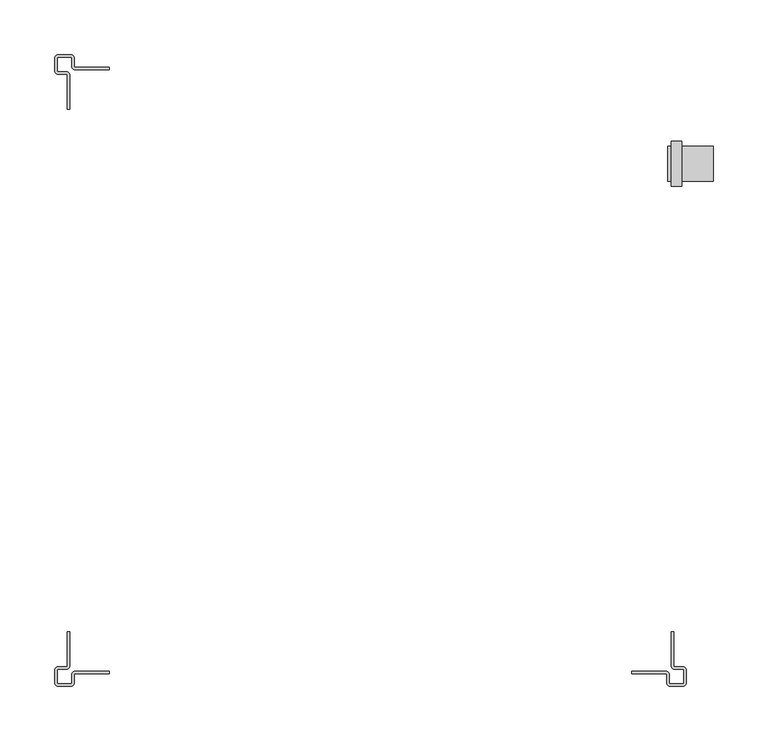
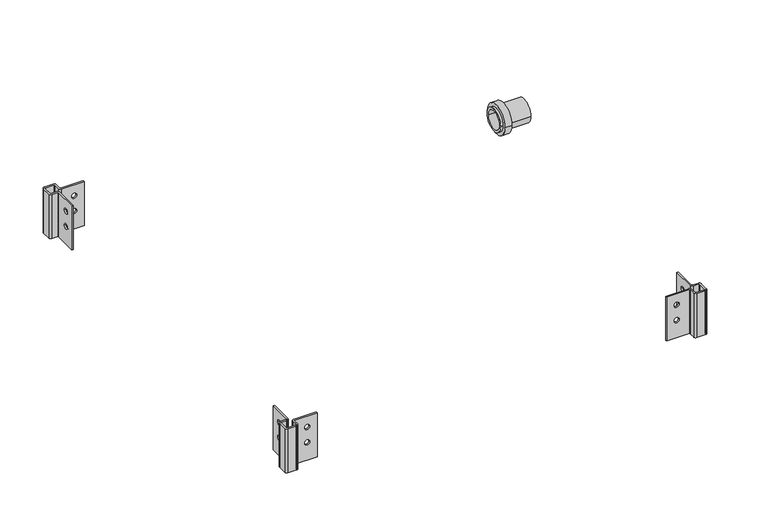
"""IFC4 building model written with IfcOpenShell, lengths in millimetres: proxy geometry, 40 SWHP : #40-SWHP."""

from ifc_helpers import new_model, si_unit, point, frame, frame_2d, origin, place, context, project, spatial, polyline, circle_curve, trimmed, segment, composite_curve, outline, extrude, source, transform, mapped, element, save
from ifc_brep_helpers import plane_surface, cylinder_surface, revolved_surface, advanced_brep


def generic_models_ff12452c(model_context):
    return source(origin(), model_context, "Body", "SolidModel", [
        advanced_brep(
        [(276.247225, -238.248825, 63.5), (274.240625, -238.248825, 63.5), (274.240625, -269.389225, 63.5), (277.009225, -272.157825, 63.5), (284.908625, -272.157825, 63.5), (285.670625, -272.919825, 63.5), (285.670625, -284.908625, 63.5), (284.908625, -285.670625, 63.5), (272.919825, -285.670625, 63.5), (272.157825, -284.908625, 63.5), (272.157825, -277.009225, 63.5), (269.389225, -274.240625, 63.5), (238.248825, -274.240625, 63.5), (238.248825, -276.247225, 63.5), (269.389225, -276.247225, 63.5), (270.151225, -277.009225, 63.5), (270.151225, -284.908625, 63.5), (272.919825, -287.677225, 63.5), (284.908625, -287.677225, 63.5), (287.677225, -284.908625, 63.5), (287.677225, -272.919825, 63.5), (284.908625, -270.151225, 63.5), (277.009225, -270.151225, 63.5), (276.247225, -269.389225, 63.5), (276.247225, -238.248825, 0.0), (276.247225, -269.389225, 0.0), (277.009225, -270.151225, 0.0), (284.908625, -270.151225, 0.0), (287.677225, -272.919825, 0.0), (287.677225, -284.908625, 0.0), (284.908625, -287.677225, 0.0), (272.919825, -287.677225, 0.0), (270.151225, -284.908625, 0.0), (270.151225, -277.009225, 0.0), (269.389225, -276.247225, 0.0), (238.248825, -276.247225, 0.0), (238.248825, -274.240625, 0.0), (269.389225, -274.240625, 0.0), (272.157825, -277.009225, 0.0), (272.157825, -284.908625, 0.0), (272.919825, -285.670625, 0.0), (284.908625, -285.670625, 0.0), (285.670625, -284.908625, 0.0), (285.670625, -272.919825, 0.0), (284.908625, -272.157825, 0.0), (277.009225, -272.157825, 0.0), (274.240625, -269.389225, 0.0), (274.240625, -238.248825, 0.0), (274.240625, -255.584325, 47.625), (274.240625, -248.446925, 47.625), (274.240625, -255.584325, 25.4), (274.240625, -248.446925, 25.4), (248.446925, -274.240625, 47.625), (255.584325, -274.240625, 47.625), (248.446925, -274.240625, 25.4), (255.584325, -274.240625, 25.4), (255.584325, -276.247225, 47.625), (248.446925, -276.247225, 47.625), (255.584325, -276.247225, 25.4), (248.446925, -276.247225, 25.4), (276.247225, -248.446925, 47.625), (276.247225, -255.584325, 47.625), (276.247225, -248.446925, 25.4), (276.247225, -255.584325, 25.4)],
        [
            (0, 1),
            (1, 2),
            (2, 3, circle_curve(frame((277.009225, -269.389225, 63.5), z_axis=(0.0, 0.0, 1.0), x_axis=(1.0, 0.0, 0.0)), 2.7686)),
            (3, 4),
            (4, 5, circle_curve(frame((284.908625, -272.919825, 63.5), z_axis=(0.0, 0.0, -1.0), x_axis=(1.0, 0.0, 0.0)), 0.762)),
            (5, 6),
            (6, 7, circle_curve(frame((284.908625, -284.908625, 63.5), z_axis=(0.0, 0.0, -1.0), x_axis=(1.0, 0.0, 0.0)), 0.762)),
            (7, 8),
            (8, 9, circle_curve(frame((272.919825, -284.908625, 63.5), z_axis=(0.0, 0.0, -1.0), x_axis=(1.0, 0.0, 0.0)), 0.762)),
            (9, 10),
            (10, 11, circle_curve(frame((269.389225, -277.009225, 63.5), z_axis=(0.0, 0.0, 1.0), x_axis=(1.0, 0.0, 0.0)), 2.7686)),
            (11, 12),
            (12, 13),
            (13, 14),
            (14, 15, circle_curve(frame((269.389225, -277.009225, 63.5), z_axis=(0.0, 0.0, -1.0), x_axis=(1.0, 0.0, 0.0)), 0.762)),
            (15, 16),
            (16, 17, circle_curve(frame((272.919825, -284.908625, 63.5), z_axis=(0.0, 0.0, 1.0), x_axis=(1.0, 0.0, 0.0)), 2.7686)),
            (17, 18),
            (18, 19, circle_curve(frame((284.908625, -284.908625, 63.5), z_axis=(0.0, 0.0, 1.0), x_axis=(1.0, 0.0, 0.0)), 2.7686)),
            (19, 20),
            (20, 21, circle_curve(frame((284.908625, -272.919825, 63.5), z_axis=(0.0, 0.0, 1.0), x_axis=(1.0, 0.0, 0.0)), 2.7686)),
            (21, 22),
            (22, 23, circle_curve(frame((277.009225, -269.389225, 63.5), z_axis=(0.0, 0.0, -1.0), x_axis=(1.0, 0.0, 0.0)), 0.762)),
            (23, 0),
            (24, 25),
            (25, 26, circle_curve(frame((277.009225, -269.389225, 0.0), z_axis=(0.0, 0.0, 1.0), x_axis=(1.0, 0.0, 0.0)), 0.762)),
            (26, 27),
            (27, 28, circle_curve(frame((284.908625, -272.919825, 0.0), z_axis=(0.0, 0.0, -1.0), x_axis=(1.0, 0.0, 0.0)), 2.7686)),
            (28, 29),
            (29, 30, circle_curve(frame((284.908625, -284.908625, 0.0), z_axis=(0.0, 0.0, -1.0), x_axis=(1.0, 0.0, 0.0)), 2.7686)),
            (30, 31),
            (31, 32, circle_curve(frame((272.919825, -284.908625, 0.0), z_axis=(0.0, 0.0, -1.0), x_axis=(1.0, 0.0, 0.0)), 2.7686)),
            (32, 33),
            (33, 34, circle_curve(frame((269.389225, -277.009225, 0.0), z_axis=(0.0, 0.0, 1.0), x_axis=(1.0, 0.0, 0.0)), 0.762)),
            (34, 35),
            (35, 36),
            (36, 37),
            (37, 38, circle_curve(frame((269.389225, -277.009225, 0.0), z_axis=(0.0, 0.0, -1.0), x_axis=(1.0, 0.0, 0.0)), 2.7686)),
            (38, 39),
            (39, 40, circle_curve(frame((272.919825, -284.908625, 0.0), z_axis=(0.0, 0.0, 1.0), x_axis=(1.0, 0.0, 0.0)), 0.762)),
            (40, 41),
            (41, 42, circle_curve(frame((284.908625, -284.908625, 0.0), z_axis=(0.0, 0.0, 1.0), x_axis=(1.0, 0.0, 0.0)), 0.762)),
            (42, 43),
            (43, 44, circle_curve(frame((284.908625, -272.919825, 0.0), z_axis=(0.0, 0.0, 1.0), x_axis=(1.0, 0.0, 0.0)), 0.762)),
            (44, 45),
            (45, 46, circle_curve(frame((277.009225, -269.389225, 0.0), z_axis=(0.0, 0.0, -1.0), x_axis=(1.0, 0.0, 0.0)), 2.7686)),
            (46, 47),
            (47, 24),
            (0, 24),
            (47, 1),
            (46, 2),
            (48, 49, circle_curve(frame((274.240625, -252.015625, 47.625), z_axis=(1.0, 0.0, 0.0), x_axis=(0.0, -1.0, 0.0)), 3.5687)),
            (49, 48, circle_curve(frame((274.240625, -252.015625, 47.625), z_axis=(1.0, 0.0, 0.0), x_axis=(0.0, -1.0, 0.0)), 3.5687)),
            (50, 51, circle_curve(frame((274.240625, -252.015625, 25.4), z_axis=(1.0, 0.0, 0.0), x_axis=(0.0, -1.0, 0.0)), 3.5687)),
            (51, 50, circle_curve(frame((274.240625, -252.015625, 25.4), z_axis=(1.0, 0.0, 0.0), x_axis=(0.0, -1.0, 0.0)), 3.5687)),
            (45, 3),
            (44, 4),
            (43, 5),
            (42, 6),
            (41, 7),
            (40, 8),
            (39, 9),
            (38, 10),
            (37, 11),
            (36, 12),
            (52, 53, circle_curve(frame((252.015625, -274.240625, 47.625), z_axis=(0.0, -1.0, 0.0), x_axis=(-1.0, 0.0, 0.0)), 3.5687)),
            (53, 52, circle_curve(frame((252.015625, -274.240625, 47.625), z_axis=(0.0, -1.0, 0.0), x_axis=(-1.0, 0.0, 0.0)), 3.5687)),
            (54, 55, circle_curve(frame((252.015625, -274.240625, 25.4), z_axis=(0.0, -1.0, 0.0), x_axis=(-1.0, 0.0, 0.0)), 3.5687)),
            (55, 54, circle_curve(frame((252.015625, -274.240625, 25.4), z_axis=(0.0, -1.0, 0.0), x_axis=(-1.0, 0.0, 0.0)), 3.5687)),
            (35, 13),
            (34, 14),
            (56, 57, circle_curve(frame((252.015625, -276.247225, 47.625), z_axis=(0.0, 1.0, 0.0), x_axis=(-1.0, 0.0, 0.0)), 3.5687)),
            (57, 56, circle_curve(frame((252.015625, -276.247225, 47.625), z_axis=(0.0, 1.0, 0.0), x_axis=(-1.0, 0.0, 0.0)), 3.5687)),
            (58, 59, circle_curve(frame((252.015625, -276.247225, 25.4), z_axis=(0.0, 1.0, 0.0), x_axis=(-1.0, 0.0, 0.0)), 3.5687)),
            (59, 58, circle_curve(frame((252.015625, -276.247225, 25.4), z_axis=(0.0, 1.0, 0.0), x_axis=(-1.0, 0.0, 0.0)), 3.5687)),
            (33, 15),
            (32, 16),
            (31, 17),
            (30, 18),
            (29, 19),
            (28, 20),
            (27, 21),
            (26, 22),
            (25, 23),
            (60, 61, circle_curve(frame((276.247225, -252.015625, 47.625), z_axis=(-1.0, 0.0, 0.0), x_axis=(0.0, -1.0, 0.0)), 3.5687)),
            (61, 60, circle_curve(frame((276.247225, -252.015625, 47.625), z_axis=(-1.0, 0.0, 0.0), x_axis=(0.0, -1.0, 0.0)), 3.5687)),
            (62, 63, circle_curve(frame((276.247225, -252.015625, 25.4), z_axis=(-1.0, 0.0, 0.0), x_axis=(0.0, -1.0, 0.0)), 3.5687)),
            (63, 62, circle_curve(frame((276.247225, -252.015625, 25.4), z_axis=(-1.0, 0.0, 0.0), x_axis=(0.0, -1.0, 0.0)), 3.5687)),
            (56, 53),
            (52, 57),
            (58, 55),
            (54, 59),
            (60, 49),
            (48, 61),
            (62, 51),
            (50, 63),
        ],
        [
            plane_surface(frame((274.240625, -238.248825, 63.5), z_axis=(0.0, 0.0, 1.0), x_axis=(-1.0, 0.0, 0.0))),
            plane_surface(frame((274.240625, -238.248825, 0.0), z_axis=(0.0, 0.0, -1.0), x_axis=(1.0, 0.0, 0.0))),
            plane_surface(frame((276.247225, -238.248825, 63.5), z_axis=(0.0, 1.0, 0.0), x_axis=(0.0, 0.0, -1.0))),
            plane_surface(frame((274.240625, -238.248825, 63.5), z_axis=(-1.0, 0.0, 0.0), x_axis=(0.0, 0.0, -1.0))),
            cylinder_surface(frame((277.009225, -269.389225, 0.0), z_axis=(0.0, 0.0, 1.0), x_axis=(1.0, 0.0, 0.0)), 2.7686),
            plane_surface(frame((277.009225, -272.157825, 63.5), z_axis=(0.0, -1.0, 0.0), x_axis=(0.0, 0.0, -1.0))),
            revolved_surface(polyline([(285.670625, -272.919825, 0.0), (285.670625, -272.919825, 63.5)]), (284.908625, -272.919825, 0.0), (0.0, 0.0, -1.0)),
            plane_surface(frame((285.670625, -272.919825, 63.5), z_axis=(-1.0, 0.0, 0.0), x_axis=(0.0, 0.0, -1.0))),
            revolved_surface(polyline([(285.670625, -284.908625, 0.0), (285.670625, -284.908625, 63.5)]), (284.908625, -284.908625, 0.0), (0.0, 0.0, -1.0)),
            plane_surface(frame((284.908625, -285.670625, 63.5), z_axis=(0.0, 1.0, 0.0), x_axis=(0.0, 0.0, -1.0))),
            revolved_surface(polyline([(273.681825, -284.908625, 0.0), (273.681825, -284.908625, 63.5)]), (272.919825, -284.908625, 0.0), (0.0, 0.0, -1.0)),
            plane_surface(frame((272.157825, -284.908625, 63.5), z_axis=(1.0, 0.0, 0.0), x_axis=(0.0, 0.0, -1.0))),
            cylinder_surface(frame((269.389225, -277.009225, 0.0), z_axis=(0.0, 0.0, 1.0), x_axis=(1.0, 0.0, 0.0)), 2.7686),
            plane_surface(frame((269.389225, -274.240625, 63.5), z_axis=(0.0, 1.0, 0.0), x_axis=(0.0, 0.0, -1.0))),
            plane_surface(frame((238.248825, -274.240625, 63.5), z_axis=(-1.0, 0.0, 0.0), x_axis=(0.0, 0.0, -1.0))),
            plane_surface(frame((238.248825, -276.247225, 63.5), z_axis=(0.0, -1.0, 0.0), x_axis=(0.0, 0.0, -1.0))),
            revolved_surface(polyline([(270.151225, -277.009225, 0.0), (270.151225, -277.009225, 63.5)]), (269.389225, -277.009225, 0.0), (0.0, 0.0, -1.0)),
            plane_surface(frame((270.151225, -277.009225, 63.5), z_axis=(-1.0, 0.0, 0.0), x_axis=(0.0, 0.0, -1.0))),
            cylinder_surface(frame((272.919825, -284.908625, 0.0), z_axis=(0.0, 0.0, 1.0), x_axis=(1.0, 0.0, 0.0)), 2.7686),
            plane_surface(frame((272.919825, -287.677225, 63.5), z_axis=(0.0, -1.0, 0.0), x_axis=(0.0, 0.0, -1.0))),
            cylinder_surface(frame((284.908625, -284.908625, 0.0), z_axis=(0.0, 0.0, 1.0), x_axis=(1.0, 0.0, 0.0)), 2.7686),
            plane_surface(frame((287.677225, -284.908625, 63.5), z_axis=(1.0, 0.0, 0.0), x_axis=(0.0, 0.0, -1.0))),
            cylinder_surface(frame((284.908625, -272.919825, 0.0), z_axis=(0.0, 0.0, 1.0), x_axis=(1.0, 0.0, 0.0)), 2.7686),
            plane_surface(frame((284.908625, -270.151225, 63.5), z_axis=(0.0, 1.0, 0.0), x_axis=(0.0, 0.0, -1.0))),
            revolved_surface(polyline([(277.771225, -269.389225, 0.0), (277.771225, -269.389225, 63.5)]), (277.009225, -269.389225, 0.0), (0.0, 0.0, -1.0)),
            plane_surface(frame((276.247225, -269.389225, 63.5), z_axis=(1.0, 0.0, 0.0), x_axis=(0.0, 0.0, -1.0))),
            revolved_surface(polyline([(248.446925, -274.240625, 47.625), (248.446925, -276.247225, 47.625)]), (252.015625, -278.914225, 47.625), (0.0, 1.0, 0.0)),
            revolved_surface(polyline([(248.446925, -274.240625, 25.4), (248.446925, -276.247225, 25.4)]), (252.015625, -278.914225, 25.4), (0.0, 1.0, 0.0)),
            revolved_surface(polyline([(274.240625, -255.584325, 47.625), (276.247225, -255.584325, 47.625)]), (278.914225, -252.015625, 47.625), (-1.0, 0.0, 0.0)),
            revolved_surface(polyline([(274.240625, -255.584325, 25.4), (276.247225, -255.584325, 25.4)]), (278.914225, -252.015625, 25.4), (-1.0, 0.0, 0.0)),
        ],
        [
            (0, [[1, 2, 3, 4, 5, 6, 7, 8, 9, 10, 11, 12, 13, 14, 15, 16, 17, 18, 19, 20, 21, 22, 23, 24]]),
            (1, [[25, 26, 27, 28, 29, 30, 31, 32, 33, 34, 35, 36, 37, 38, 39, 40, 41, 42, 43, 44, 45, 46, 47, 48]]),
            (2, [[-1, 49, -48, 50]]),
            (3, [[-2, -50, -47, 51], [52, 53], [54, 55]]),
            (4, [[-3, -51, -46, 56]]),
            (5, [[-4, -56, -45, 57]]),
            (6, [[-5, -57, -44, 58]]),
            (7, [[-6, -58, -43, 59]]),
            (8, [[-7, -59, -42, 60]]),
            (9, [[-8, -60, -41, 61]]),
            (10, [[-9, -61, -40, 62]]),
            (11, [[-10, -62, -39, 63]]),
            (12, [[-11, -63, -38, 64]]),
            (13, [[-12, -64, -37, 65], [66, 67], [68, 69]]),
            (14, [[-13, -65, -36, 70]]),
            (15, [[-14, -70, -35, 71], [72, 73], [74, 75]]),
            (16, [[-15, -71, -34, 76]]),
            (17, [[-16, -76, -33, 77]]),
            (18, [[-17, -77, -32, 78]]),
            (19, [[-18, -78, -31, 79]]),
            (20, [[-19, -79, -30, 80]]),
            (21, [[-20, -80, -29, 81]]),
            (22, [[-21, -81, -28, 82]]),
            (23, [[-22, -82, -27, 83]]),
            (24, [[-23, -83, -26, 84]]),
            (25, [[-24, -84, -25, -49], [85, 86], [87, 88]]),
            (26, [[89, -66, 90, -72]]),
            (26, [[-89, -73, -90, -67]]),
            (27, [[91, -68, 92, -74]]),
            (27, [[-91, -75, -92, -69]]),
            (28, [[93, -52, 94, -85]]),
            (28, [[-93, -86, -94, -53]]),
            (29, [[95, -54, 96, -87]]),
            (29, [[-95, -88, -96, -55]]),
        ],
    ),
        advanced_brep(
        [(-276.247225, -269.389225, 63.5), (-277.009225, -270.151225, 63.5), (-284.908625, -270.151225, 63.5), (-287.677225, -272.919825, 63.5), (-287.677225, -284.908625, 63.5), (-284.908625, -287.677225, 63.5), (-272.919825, -287.677225, 63.5), (-270.151225, -284.908625, 63.5), (-270.151225, -277.009225, 63.5), (-269.389225, -276.247225, 63.5), (-238.248825, -276.247225, 63.5), (-238.248825, -274.240625, 63.5), (-269.389225, -274.240625, 63.5), (-272.157825, -277.009225, 63.5), (-272.157825, -284.908625, 63.5), (-272.919825, -285.670625, 63.5), (-284.908625, -285.670625, 63.5), (-285.670625, -284.908625, 63.5), (-285.670625, -272.919825, 63.5), (-284.908625, -272.157825, 63.5), (-277.009225, -272.157825, 63.5), (-274.240625, -269.389225, 63.5), (-274.240625, -238.248825, 63.5), (-276.247225, -238.248825, 63.5), (-276.247225, -269.389225, 0.0), (-276.247225, -238.248825, 0.0), (-274.240625, -238.248825, 0.0), (-274.240625, -269.389225, 0.0), (-277.009225, -272.157825, 0.0), (-284.908625, -272.157825, 0.0), (-285.670625, -272.919825, 0.0), (-285.670625, -284.908625, 0.0), (-284.908625, -285.670625, 0.0), (-272.919825, -285.670625, 0.0), (-272.157825, -284.908625, 0.0), (-272.157825, -277.009225, 0.0), (-269.389225, -274.240625, 0.0), (-238.248825, -274.240625, 0.0), (-238.248825, -276.247225, 0.0), (-269.389225, -276.247225, 0.0), (-270.151225, -277.009225, 0.0), (-270.151225, -284.908625, 0.0), (-272.919825, -287.677225, 0.0), (-284.908625, -287.677225, 0.0), (-287.677225, -284.908625, 0.0), (-287.677225, -272.919825, 0.0), (-284.908625, -270.151225, 0.0), (-277.009225, -270.151225, 0.0), (-248.446925, -276.247225, 47.625), (-255.584325, -276.247225, 47.625), (-248.446925, -276.247225, 25.4), (-255.584325, -276.247225, 25.4), (-255.584325, -274.240625, 47.625), (-248.446925, -274.240625, 47.625), (-255.584325, -274.240625, 25.4), (-248.446925, -274.240625, 25.4), (-274.240625, -248.446925, 47.625), (-274.240625, -255.584325, 47.625), (-274.240625, -248.446925, 25.4), (-274.240625, -255.584325, 25.4), (-276.247225, -255.584325, 47.625), (-276.247225, -248.446925, 47.625), (-276.247225, -255.584325, 25.4), (-276.247225, -248.446925, 25.4)],
        [
            (0, 1, circle_curve(frame((-277.009225, -269.389225, 63.5), z_axis=(0.0, 0.0, -1.0), x_axis=(1.0, 0.0, 0.0)), 0.762)),
            (1, 2),
            (2, 3, circle_curve(frame((-284.908625, -272.919825, 63.5), z_axis=(0.0, 0.0, 1.0), x_axis=(1.0, 0.0, 0.0)), 2.7686)),
            (3, 4),
            (4, 5, circle_curve(frame((-284.908625, -284.908625, 63.5), z_axis=(0.0, 0.0, 1.0), x_axis=(1.0, 0.0, 0.0)), 2.7686)),
            (5, 6),
            (6, 7, circle_curve(frame((-272.919825, -284.908625, 63.5), z_axis=(0.0, 0.0, 1.0), x_axis=(1.0, 0.0, 0.0)), 2.7686)),
            (7, 8),
            (8, 9, circle_curve(frame((-269.389225, -277.009225, 63.5), z_axis=(0.0, 0.0, -1.0), x_axis=(1.0, 0.0, 0.0)), 0.762)),
            (9, 10),
            (10, 11),
            (11, 12),
            (12, 13, circle_curve(frame((-269.389225, -277.009225, 63.5), z_axis=(0.0, 0.0, 1.0), x_axis=(1.0, 0.0, 0.0)), 2.7686)),
            (13, 14),
            (14, 15, circle_curve(frame((-272.919825, -284.908625, 63.5), z_axis=(0.0, 0.0, -1.0), x_axis=(1.0, 0.0, 0.0)), 0.762)),
            (15, 16),
            (16, 17, circle_curve(frame((-284.908625, -284.908625, 63.5), z_axis=(0.0, 0.0, -1.0), x_axis=(1.0, 0.0, 0.0)), 0.762)),
            (17, 18),
            (18, 19, circle_curve(frame((-284.908625, -272.919825, 63.5), z_axis=(0.0, 0.0, -1.0), x_axis=(1.0, 0.0, 0.0)), 0.762)),
            (19, 20),
            (20, 21, circle_curve(frame((-277.009225, -269.389225, 63.5), z_axis=(0.0, 0.0, 1.0), x_axis=(1.0, 0.0, 0.0)), 2.7686)),
            (21, 22),
            (22, 23),
            (23, 0),
            (24, 25),
            (25, 26),
            (26, 27),
            (27, 28, circle_curve(frame((-277.009225, -269.389225, 0.0), z_axis=(0.0, 0.0, -1.0), x_axis=(1.0, 0.0, 0.0)), 2.7686)),
            (28, 29),
            (29, 30, circle_curve(frame((-284.908625, -272.919825, 0.0), z_axis=(0.0, 0.0, 1.0), x_axis=(1.0, 0.0, 0.0)), 0.762)),
            (30, 31),
            (31, 32, circle_curve(frame((-284.908625, -284.908625, 0.0), z_axis=(0.0, 0.0, 1.0), x_axis=(1.0, 0.0, 0.0)), 0.762)),
            (32, 33),
            (33, 34, circle_curve(frame((-272.919825, -284.908625, 0.0), z_axis=(0.0, 0.0, 1.0), x_axis=(1.0, 0.0, 0.0)), 0.762)),
            (34, 35),
            (35, 36, circle_curve(frame((-269.389225, -277.009225, 0.0), z_axis=(0.0, 0.0, -1.0), x_axis=(1.0, 0.0, 0.0)), 2.7686)),
            (36, 37),
            (37, 38),
            (38, 39),
            (39, 40, circle_curve(frame((-269.389225, -277.009225, 0.0), z_axis=(0.0, 0.0, 1.0), x_axis=(1.0, 0.0, 0.0)), 0.762)),
            (40, 41),
            (41, 42, circle_curve(frame((-272.919825, -284.908625, 0.0), z_axis=(0.0, 0.0, -1.0), x_axis=(1.0, 0.0, 0.0)), 2.7686)),
            (42, 43),
            (43, 44, circle_curve(frame((-284.908625, -284.908625, 0.0), z_axis=(0.0, 0.0, -1.0), x_axis=(1.0, 0.0, 0.0)), 2.7686)),
            (44, 45),
            (45, 46, circle_curve(frame((-284.908625, -272.919825, 0.0), z_axis=(0.0, 0.0, -1.0), x_axis=(1.0, 0.0, 0.0)), 2.7686)),
            (46, 47),
            (47, 24, circle_curve(frame((-277.009225, -269.389225, 0.0), z_axis=(0.0, 0.0, 1.0), x_axis=(1.0, 0.0, 0.0)), 0.762)),
            (0, 24),
            (47, 1),
            (46, 2),
            (45, 3),
            (44, 4),
            (43, 5),
            (42, 6),
            (41, 7),
            (40, 8),
            (39, 9),
            (38, 10),
            (48, 49, circle_curve(frame((-252.015625, -276.247225, 47.625), z_axis=(0.0, 1.0, 0.0), x_axis=(-1.0, 0.0, 0.0)), 3.5687)),
            (49, 48, circle_curve(frame((-252.015625, -276.247225, 47.625), z_axis=(0.0, 1.0, 0.0), x_axis=(-1.0, 0.0, 0.0)), 3.5687)),
            (50, 51, circle_curve(frame((-252.015625, -276.247225, 25.4), z_axis=(0.0, 1.0, 0.0), x_axis=(-1.0, 0.0, 0.0)), 3.5687)),
            (51, 50, circle_curve(frame((-252.015625, -276.247225, 25.4), z_axis=(0.0, 1.0, 0.0), x_axis=(-1.0, 0.0, 0.0)), 3.5687)),
            (37, 11),
            (36, 12),
            (52, 53, circle_curve(frame((-252.015625, -274.240625, 47.625), z_axis=(0.0, -1.0, 0.0), x_axis=(-1.0, 0.0, 0.0)), 3.5687)),
            (53, 52, circle_curve(frame((-252.015625, -274.240625, 47.625), z_axis=(0.0, -1.0, 0.0), x_axis=(-1.0, 0.0, 0.0)), 3.5687)),
            (54, 55, circle_curve(frame((-252.015625, -274.240625, 25.4), z_axis=(0.0, -1.0, 0.0), x_axis=(-1.0, 0.0, 0.0)), 3.5687)),
            (55, 54, circle_curve(frame((-252.015625, -274.240625, 25.4), z_axis=(0.0, -1.0, 0.0), x_axis=(-1.0, 0.0, 0.0)), 3.5687)),
            (35, 13),
            (34, 14),
            (33, 15),
            (32, 16),
            (31, 17),
            (30, 18),
            (29, 19),
            (28, 20),
            (27, 21),
            (26, 22),
            (56, 57, circle_curve(frame((-274.240625, -252.015625, 47.625), z_axis=(-1.0, 0.0, 0.0), x_axis=(0.0, -1.0, 0.0)), 3.5687)),
            (57, 56, circle_curve(frame((-274.240625, -252.015625, 47.625), z_axis=(-1.0, 0.0, 0.0), x_axis=(0.0, -1.0, 0.0)), 3.5687)),
            (58, 59, circle_curve(frame((-274.240625, -252.015625, 25.4), z_axis=(-1.0, 0.0, 0.0), x_axis=(0.0, -1.0, 0.0)), 3.5687)),
            (59, 58, circle_curve(frame((-274.240625, -252.015625, 25.4), z_axis=(-1.0, 0.0, 0.0), x_axis=(0.0, -1.0, 0.0)), 3.5687)),
            (25, 23),
            (60, 61, circle_curve(frame((-276.247225, -252.015625, 47.625), z_axis=(1.0, 0.0, 0.0), x_axis=(0.0, -1.0, 0.0)), 3.5687)),
            (61, 60, circle_curve(frame((-276.247225, -252.015625, 47.625), z_axis=(1.0, 0.0, 0.0), x_axis=(0.0, -1.0, 0.0)), 3.5687)),
            (62, 63, circle_curve(frame((-276.247225, -252.015625, 25.4), z_axis=(1.0, 0.0, 0.0), x_axis=(0.0, -1.0, 0.0)), 3.5687)),
            (63, 62, circle_curve(frame((-276.247225, -252.015625, 25.4), z_axis=(1.0, 0.0, 0.0), x_axis=(0.0, -1.0, 0.0)), 3.5687)),
            (56, 61),
            (60, 57),
            (58, 63),
            (62, 59),
            (48, 53),
            (52, 49),
            (50, 55),
            (54, 51),
        ],
        [
            plane_surface(frame((-276.247225, -269.389225, 63.5), z_axis=(0.0, 0.0, 1.0), x_axis=(0.0, -1.0, 0.0))),
            plane_surface(frame((-276.247225, -269.389225, 0.0), z_axis=(0.0, 0.0, -1.0), x_axis=(0.0, 1.0, 0.0))),
            revolved_surface(polyline([(-276.247225, -269.389225, 0.0), (-276.247225, -269.389225, 63.5)]), (-277.009225, -269.389225, 0.0), (0.0, 0.0, -1.0)),
            plane_surface(frame((-277.009225, -270.151225, 63.5), z_axis=(0.0, 1.0, 0.0), x_axis=(0.0, 0.0, -1.0))),
            cylinder_surface(frame((-284.908625, -272.919825, 0.0), z_axis=(0.0, 0.0, 1.0), x_axis=(1.0, 0.0, 0.0)), 2.7686),
            plane_surface(frame((-287.677225, -272.919825, 63.5), z_axis=(-1.0, 0.0, 0.0), x_axis=(0.0, 0.0, -1.0))),
            cylinder_surface(frame((-284.908625, -284.908625, 0.0), z_axis=(0.0, 0.0, 1.0), x_axis=(1.0, 0.0, 0.0)), 2.7686),
            plane_surface(frame((-284.908625, -287.677225, 63.5), z_axis=(0.0, -1.0, 0.0), x_axis=(0.0, 0.0, -1.0))),
            cylinder_surface(frame((-272.919825, -284.908625, 0.0), z_axis=(0.0, 0.0, 1.0), x_axis=(1.0, 0.0, 0.0)), 2.7686),
            plane_surface(frame((-270.151225, -284.908625, 63.5), z_axis=(1.0, 0.0, 0.0), x_axis=(0.0, 0.0, -1.0))),
            revolved_surface(polyline([(-268.627225, -277.009225, 0.0), (-268.627225, -277.009225, 63.5)]), (-269.389225, -277.009225, 0.0), (0.0, 0.0, -1.0)),
            plane_surface(frame((-269.389225, -276.247225, 63.5), z_axis=(0.0, -1.0, 0.0), x_axis=(0.0, 0.0, -1.0))),
            plane_surface(frame((-238.248825, -276.247225, 63.5), z_axis=(1.0, 0.0, 0.0), x_axis=(0.0, 0.0, -1.0))),
            plane_surface(frame((-238.248825, -274.240625, 63.5), z_axis=(0.0, 1.0, 0.0), x_axis=(0.0, 0.0, -1.0))),
            cylinder_surface(frame((-269.389225, -277.009225, 0.0), z_axis=(0.0, 0.0, 1.0), x_axis=(1.0, 0.0, 0.0)), 2.7686),
            plane_surface(frame((-272.157825, -277.009225, 63.5), z_axis=(-1.0, 0.0, 0.0), x_axis=(0.0, 0.0, -1.0))),
            revolved_surface(polyline([(-272.157825, -284.908625, 0.0), (-272.157825, -284.908625, 63.5)]), (-272.919825, -284.908625, 0.0), (0.0, 0.0, -1.0)),
            plane_surface(frame((-272.919825, -285.670625, 63.5), z_axis=(0.0, 1.0, 0.0), x_axis=(0.0, 0.0, -1.0))),
            revolved_surface(polyline([(-284.146625, -284.908625, 0.0), (-284.146625, -284.908625, 63.5)]), (-284.908625, -284.908625, 0.0), (0.0, 0.0, -1.0)),
            plane_surface(frame((-285.670625, -284.908625, 63.5), z_axis=(1.0, 0.0, 0.0), x_axis=(0.0, 0.0, -1.0))),
            revolved_surface(polyline([(-284.146625, -272.919825, 0.0), (-284.146625, -272.919825, 63.5)]), (-284.908625, -272.919825, 0.0), (0.0, 0.0, -1.0)),
            plane_surface(frame((-284.908625, -272.157825, 63.5), z_axis=(0.0, -1.0, 0.0), x_axis=(0.0, 0.0, -1.0))),
            cylinder_surface(frame((-277.009225, -269.389225, 0.0), z_axis=(0.0, 0.0, 1.0), x_axis=(1.0, 0.0, 0.0)), 2.7686),
            plane_surface(frame((-274.240625, -269.389225, 63.5), z_axis=(1.0, 0.0, 0.0), x_axis=(0.0, 0.0, -1.0))),
            plane_surface(frame((-274.240625, -238.248825, 63.5), z_axis=(0.0, 1.0, 0.0), x_axis=(0.0, 0.0, -1.0))),
            plane_surface(frame((-276.247225, -238.248825, 63.5), z_axis=(-1.0, 0.0, 0.0), x_axis=(0.0, 0.0, -1.0))),
            revolved_surface(polyline([(-276.247225, -255.584325, 47.625), (-274.240625, -255.584325, 47.625)]), (-271.065625, -252.015625, 47.625), (-1.0, 0.0, 0.0)),
            revolved_surface(polyline([(-276.247225, -255.584325, 25.4), (-274.240625, -255.584325, 25.4)]), (-278.914225, -252.015625, 25.4), (-1.0, 0.0, 0.0)),
            revolved_surface(polyline([(-255.584325, -274.240625, 47.625), (-255.584325, -276.247225, 47.625)]), (-252.015625, -278.914225, 47.625), (0.0, 1.0, 0.0)),
            revolved_surface(polyline([(-255.584325, -274.240625, 25.4), (-255.584325, -276.247225, 25.4)]), (-252.015625, -278.914225, 25.4), (0.0, 1.0, 0.0)),
        ],
        [
            (0, [[1, 2, 3, 4, 5, 6, 7, 8, 9, 10, 11, 12, 13, 14, 15, 16, 17, 18, 19, 20, 21, 22, 23, 24]]),
            (1, [[25, 26, 27, 28, 29, 30, 31, 32, 33, 34, 35, 36, 37, 38, 39, 40, 41, 42, 43, 44, 45, 46, 47, 48]]),
            (2, [[-1, 49, -48, 50]]),
            (3, [[-2, -50, -47, 51]]),
            (4, [[-3, -51, -46, 52]]),
            (5, [[-4, -52, -45, 53]]),
            (6, [[-5, -53, -44, 54]]),
            (7, [[-6, -54, -43, 55]]),
            (8, [[-7, -55, -42, 56]]),
            (9, [[-8, -56, -41, 57]]),
            (10, [[-9, -57, -40, 58]]),
            (11, [[-10, -58, -39, 59], [60, 61], [62, 63]]),
            (12, [[-11, -59, -38, 64]]),
            (13, [[-12, -64, -37, 65], [66, 67], [68, 69]]),
            (14, [[-13, -65, -36, 70]]),
            (15, [[-14, -70, -35, 71]]),
            (16, [[-15, -71, -34, 72]]),
            (17, [[-16, -72, -33, 73]]),
            (18, [[-17, -73, -32, 74]]),
            (19, [[-18, -74, -31, 75]]),
            (20, [[-19, -75, -30, 76]]),
            (21, [[-20, -76, -29, 77]]),
            (22, [[-21, -77, -28, 78]]),
            (23, [[-22, -78, -27, 79], [80, 81], [82, 83]]),
            (24, [[-23, -79, -26, 84]]),
            (25, [[-24, -84, -25, -49], [85, 86], [87, 88]]),
            (26, [[89, -85, 90, -80]]),
            (26, [[-89, -81, -90, -86]]),
            (27, [[91, -87, 92, -82]]),
            (27, [[-91, -83, -92, -88]]),
            (28, [[93, -66, 94, -60]]),
            (28, [[-93, -61, -94, -67]]),
            (29, [[95, -68, 96, -62]]),
            (29, [[-95, -63, -96, -69]]),
        ],
    ),
        advanced_brep(
        [(-238.248825, 276.247225, 63.5), (-269.389225, 276.247225, 63.5), (-270.151225, 277.009225, 63.5), (-270.151225, 284.908625, 63.5), (-272.919825, 287.677225, 63.5), (-284.908625, 287.677225, 63.5), (-287.677225, 284.908625, 63.5), (-287.677225, 272.919825, 63.5), (-284.908625, 270.151225, 63.5), (-277.009225, 270.151225, 63.5), (-276.247225, 269.389225, 63.5), (-276.247225, 238.248825, 63.5), (-274.240625, 238.248825, 63.5), (-274.240625, 269.389225, 63.5), (-277.009225, 272.157825, 63.5), (-284.908625, 272.157825, 63.5), (-285.670625, 272.919825, 63.5), (-285.670625, 284.908625, 63.5), (-284.908625, 285.670625, 63.5), (-272.919825, 285.670625, 63.5), (-272.157825, 284.908625, 63.5), (-272.157825, 277.009225, 63.5), (-269.389225, 274.240625, 63.5), (-238.248825, 274.240625, 63.5), (-238.248825, 276.247225, 0.0), (-238.248825, 274.240625, 0.0), (-269.389225, 274.240625, 0.0), (-272.157825, 277.009225, 0.0), (-272.157825, 284.908625, 0.0), (-272.919825, 285.670625, 0.0), (-284.908625, 285.670625, 0.0), (-285.670625, 284.908625, 0.0), (-285.670625, 272.919825, 0.0), (-284.908625, 272.157825, 0.0), (-277.009225, 272.157825, 0.0), (-274.240625, 269.389225, 0.0), (-274.240625, 238.248825, 0.0), (-276.247225, 238.248825, 0.0), (-276.247225, 269.389225, 0.0), (-277.009225, 270.151225, 0.0), (-284.908625, 270.151225, 0.0), (-287.677225, 272.919825, 0.0), (-287.677225, 284.908625, 0.0), (-284.908625, 287.677225, 0.0), (-272.919825, 287.677225, 0.0), (-270.151225, 284.908625, 0.0), (-270.151225, 277.009225, 0.0), (-269.389225, 276.247225, 0.0), (-255.584325, 276.247225, 47.625), (-248.446925, 276.247225, 47.625), (-255.584325, 276.247225, 25.4), (-248.446925, 276.247225, 25.4), (-276.247225, 248.446925, 47.625), (-276.247225, 255.584325, 47.625), (-276.247225, 248.446925, 25.4), (-276.247225, 255.584325, 25.4), (-274.240625, 255.584325, 47.625), (-274.240625, 248.446925, 47.625), (-274.240625, 255.584325, 25.4), (-274.240625, 248.446925, 25.4), (-248.446925, 274.240625, 47.625), (-255.584325, 274.240625, 47.625), (-248.446925, 274.240625, 25.4), (-255.584325, 274.240625, 25.4)],
        [
            (0, 1),
            (1, 2, circle_curve(frame((-269.389225, 277.009225, 63.5), z_axis=(0.0, 0.0, -1.0), x_axis=(1.0, 0.0, 0.0)), 0.762)),
            (2, 3),
            (3, 4, circle_curve(frame((-272.919825, 284.908625, 63.5), z_axis=(0.0, 0.0, 1.0), x_axis=(1.0, 0.0, 0.0)), 2.7686)),
            (4, 5),
            (5, 6, circle_curve(frame((-284.908625, 284.908625, 63.5), z_axis=(0.0, 0.0, 1.0), x_axis=(1.0, 0.0, 0.0)), 2.7686)),
            (6, 7),
            (7, 8, circle_curve(frame((-284.908625, 272.919825, 63.5), z_axis=(0.0, 0.0, 1.0), x_axis=(1.0, 0.0, 0.0)), 2.7686)),
            (8, 9),
            (9, 10, circle_curve(frame((-277.009225, 269.389225, 63.5), z_axis=(0.0, 0.0, -1.0), x_axis=(1.0, 0.0, 0.0)), 0.762)),
            (10, 11),
            (11, 12),
            (12, 13),
            (13, 14, circle_curve(frame((-277.009225, 269.389225, 63.5), z_axis=(0.0, 0.0, 1.0), x_axis=(1.0, 0.0, 0.0)), 2.7686)),
            (14, 15),
            (15, 16, circle_curve(frame((-284.908625, 272.919825, 63.5), z_axis=(0.0, 0.0, -1.0), x_axis=(1.0, 0.0, 0.0)), 0.762)),
            (16, 17),
            (17, 18, circle_curve(frame((-284.908625, 284.908625, 63.5), z_axis=(0.0, 0.0, -1.0), x_axis=(1.0, 0.0, 0.0)), 0.762)),
            (18, 19),
            (19, 20, circle_curve(frame((-272.919825, 284.908625, 63.5), z_axis=(0.0, 0.0, -1.0), x_axis=(1.0, 0.0, 0.0)), 0.762)),
            (20, 21),
            (21, 22, circle_curve(frame((-269.389225, 277.009225, 63.5), z_axis=(0.0, 0.0, 1.0), x_axis=(1.0, 0.0, 0.0)), 2.7686)),
            (22, 23),
            (23, 0),
            (24, 25),
            (25, 26),
            (26, 27, circle_curve(frame((-269.389225, 277.009225, 0.0), z_axis=(0.0, 0.0, -1.0), x_axis=(1.0, 0.0, 0.0)), 2.7686)),
            (27, 28),
            (28, 29, circle_curve(frame((-272.919825, 284.908625, 0.0), z_axis=(0.0, 0.0, 1.0), x_axis=(1.0, 0.0, 0.0)), 0.762)),
            (29, 30),
            (30, 31, circle_curve(frame((-284.908625, 284.908625, 0.0), z_axis=(0.0, 0.0, 1.0), x_axis=(1.0, 0.0, 0.0)), 0.762)),
            (31, 32),
            (32, 33, circle_curve(frame((-284.908625, 272.919825, 0.0), z_axis=(0.0, 0.0, 1.0), x_axis=(1.0, 0.0, 0.0)), 0.762)),
            (33, 34),
            (34, 35, circle_curve(frame((-277.009225, 269.389225, 0.0), z_axis=(0.0, 0.0, -1.0), x_axis=(1.0, 0.0, 0.0)), 2.7686)),
            (35, 36),
            (36, 37),
            (37, 38),
            (38, 39, circle_curve(frame((-277.009225, 269.389225, 0.0), z_axis=(0.0, 0.0, 1.0), x_axis=(1.0, 0.0, 0.0)), 0.762)),
            (39, 40),
            (40, 41, circle_curve(frame((-284.908625, 272.919825, 0.0), z_axis=(0.0, 0.0, -1.0), x_axis=(1.0, 0.0, 0.0)), 2.7686)),
            (41, 42),
            (42, 43, circle_curve(frame((-284.908625, 284.908625, 0.0), z_axis=(0.0, 0.0, -1.0), x_axis=(1.0, 0.0, 0.0)), 2.7686)),
            (43, 44),
            (44, 45, circle_curve(frame((-272.919825, 284.908625, 0.0), z_axis=(0.0, 0.0, -1.0), x_axis=(1.0, 0.0, 0.0)), 2.7686)),
            (45, 46),
            (46, 47, circle_curve(frame((-269.389225, 277.009225, 0.0), z_axis=(0.0, 0.0, 1.0), x_axis=(1.0, 0.0, 0.0)), 0.762)),
            (47, 24),
            (0, 24),
            (47, 1),
            (48, 49, circle_curve(frame((-252.015625, 276.247225, 47.625), z_axis=(0.0, -1.0, 0.0), x_axis=(-1.0, 0.0, 0.0)), 3.5687)),
            (49, 48, circle_curve(frame((-252.015625, 276.247225, 47.625), z_axis=(0.0, -1.0, 0.0), x_axis=(-1.0, 0.0, 0.0)), 3.5687)),
            (50, 51, circle_curve(frame((-252.015625, 276.247225, 25.4), z_axis=(0.0, -1.0, 0.0), x_axis=(-1.0, 0.0, 0.0)), 3.5687)),
            (51, 50, circle_curve(frame((-252.015625, 276.247225, 25.4), z_axis=(0.0, -1.0, 0.0), x_axis=(-1.0, 0.0, 0.0)), 3.5687)),
            (46, 2),
            (45, 3),
            (44, 4),
            (43, 5),
            (42, 6),
            (41, 7),
            (40, 8),
            (39, 9),
            (38, 10),
            (37, 11),
            (52, 53, circle_curve(frame((-276.247225, 252.015625, 47.625), z_axis=(1.0, 0.0, 0.0), x_axis=(0.0, -1.0, 0.0)), 3.5687)),
            (53, 52, circle_curve(frame((-276.247225, 252.015625, 47.625), z_axis=(1.0, 0.0, 0.0), x_axis=(0.0, -1.0, 0.0)), 3.5687)),
            (54, 55, circle_curve(frame((-276.247225, 252.015625, 25.4), z_axis=(1.0, 0.0, 0.0), x_axis=(0.0, -1.0, 0.0)), 3.5687)),
            (55, 54, circle_curve(frame((-276.247225, 252.015625, 25.4), z_axis=(1.0, 0.0, 0.0), x_axis=(0.0, -1.0, 0.0)), 3.5687)),
            (36, 12),
            (35, 13),
            (56, 57, circle_curve(frame((-274.240625, 252.015625, 47.625), z_axis=(-1.0, 0.0, 0.0), x_axis=(0.0, -1.0, 0.0)), 3.5687)),
            (57, 56, circle_curve(frame((-274.240625, 252.015625, 47.625), z_axis=(-1.0, 0.0, 0.0), x_axis=(0.0, -1.0, 0.0)), 3.5687)),
            (58, 59, circle_curve(frame((-274.240625, 252.015625, 25.4), z_axis=(-1.0, 0.0, 0.0), x_axis=(0.0, -1.0, 0.0)), 3.5687)),
            (59, 58, circle_curve(frame((-274.240625, 252.015625, 25.4), z_axis=(-1.0, 0.0, 0.0), x_axis=(0.0, -1.0, 0.0)), 3.5687)),
            (34, 14),
            (33, 15),
            (32, 16),
            (31, 17),
            (30, 18),
            (29, 19),
            (28, 20),
            (27, 21),
            (26, 22),
            (25, 23),
            (60, 61, circle_curve(frame((-252.015625, 274.240625, 47.625), z_axis=(0.0, 1.0, 0.0), x_axis=(-1.0, 0.0, 0.0)), 3.5687)),
            (61, 60, circle_curve(frame((-252.015625, 274.240625, 47.625), z_axis=(0.0, 1.0, 0.0), x_axis=(-1.0, 0.0, 0.0)), 3.5687)),
            (62, 63, circle_curve(frame((-252.015625, 274.240625, 25.4), z_axis=(0.0, 1.0, 0.0), x_axis=(-1.0, 0.0, 0.0)), 3.5687)),
            (63, 62, circle_curve(frame((-252.015625, 274.240625, 25.4), z_axis=(0.0, 1.0, 0.0), x_axis=(-1.0, 0.0, 0.0)), 3.5687)),
            (56, 53),
            (52, 57),
            (58, 55),
            (54, 59),
            (60, 49),
            (48, 61),
            (62, 51),
            (50, 63),
        ],
        [
            plane_surface(frame((-269.389225, 276.247225, 63.5), z_axis=(0.0, 0.0, 1.0), x_axis=(-1.0, 0.0, 0.0))),
            plane_surface(frame((-269.389225, 276.247225, 0.0), z_axis=(0.0, 0.0, -1.0), x_axis=(1.0, 0.0, 0.0))),
            plane_surface(frame((-238.248825, 276.247225, 63.5), z_axis=(0.0, 1.0, 0.0), x_axis=(0.0, 0.0, -1.0))),
            revolved_surface(polyline([(-268.627225, 277.009225, 0.0), (-268.627225, 277.009225, 63.5)]), (-269.389225, 277.009225, 0.0), (0.0, 0.0, -1.0)),
            plane_surface(frame((-270.151225, 277.009225, 63.5), z_axis=(1.0, 0.0, 0.0), x_axis=(0.0, 0.0, -1.0))),
            cylinder_surface(frame((-272.919825, 284.908625, 0.0), z_axis=(0.0, 0.0, 1.0), x_axis=(1.0, 0.0, 0.0)), 2.7686),
            plane_surface(frame((-272.919825, 287.677225, 63.5), z_axis=(0.0, 1.0, 0.0), x_axis=(0.0, 0.0, -1.0))),
            cylinder_surface(frame((-284.908625, 284.908625, 0.0), z_axis=(0.0, 0.0, 1.0), x_axis=(1.0, 0.0, 0.0)), 2.7686),
            plane_surface(frame((-287.677225, 284.908625, 63.5), z_axis=(-1.0, 0.0, 0.0), x_axis=(0.0, 0.0, -1.0))),
            cylinder_surface(frame((-284.908625, 272.919825, 0.0), z_axis=(0.0, 0.0, 1.0), x_axis=(1.0, 0.0, 0.0)), 2.7686),
            plane_surface(frame((-284.908625, 270.151225, 63.5), z_axis=(0.0, -1.0, 0.0), x_axis=(0.0, 0.0, -1.0))),
            revolved_surface(polyline([(-276.247225, 269.389225, 0.0), (-276.247225, 269.389225, 63.5)]), (-277.009225, 269.389225, 0.0), (0.0, 0.0, -1.0)),
            plane_surface(frame((-276.247225, 269.389225, 63.5), z_axis=(-1.0, 0.0, 0.0), x_axis=(0.0, 0.0, -1.0))),
            plane_surface(frame((-276.247225, 238.248825, 63.5), z_axis=(0.0, -1.0, 0.0), x_axis=(0.0, 0.0, -1.0))),
            plane_surface(frame((-274.240625, 238.248825, 63.5), z_axis=(1.0, 0.0, 0.0), x_axis=(0.0, 0.0, -1.0))),
            cylinder_surface(frame((-277.009225, 269.389225, 0.0), z_axis=(0.0, 0.0, 1.0), x_axis=(1.0, 0.0, 0.0)), 2.7686),
            plane_surface(frame((-277.009225, 272.157825, 63.5), z_axis=(0.0, 1.0, 0.0), x_axis=(0.0, 0.0, -1.0))),
            revolved_surface(polyline([(-284.146625, 272.919825, 0.0), (-284.146625, 272.919825, 63.5)]), (-284.908625, 272.919825, 0.0), (0.0, 0.0, -1.0)),
            plane_surface(frame((-285.670625, 272.919825, 63.5), z_axis=(1.0, 0.0, 0.0), x_axis=(0.0, 0.0, -1.0))),
            revolved_surface(polyline([(-284.146625, 284.908625, 0.0), (-284.146625, 284.908625, 63.5)]), (-284.908625, 284.908625, 0.0), (0.0, 0.0, -1.0)),
            plane_surface(frame((-284.908625, 285.670625, 63.5), z_axis=(0.0, -1.0, 0.0), x_axis=(0.0, 0.0, -1.0))),
            revolved_surface(polyline([(-272.157825, 284.908625, 0.0), (-272.157825, 284.908625, 63.5)]), (-272.919825, 284.908625, 0.0), (0.0, 0.0, -1.0)),
            plane_surface(frame((-272.157825, 284.908625, 63.5), z_axis=(-1.0, 0.0, 0.0), x_axis=(0.0, 0.0, -1.0))),
            cylinder_surface(frame((-269.389225, 277.009225, 0.0), z_axis=(0.0, 0.0, 1.0), x_axis=(1.0, 0.0, 0.0)), 2.7686),
            plane_surface(frame((-269.389225, 274.240625, 63.5), z_axis=(0.0, -1.0, 0.0), x_axis=(0.0, 0.0, -1.0))),
            plane_surface(frame((-238.248825, 274.240625, 63.5), z_axis=(1.0, 0.0, 0.0), x_axis=(0.0, 0.0, -1.0))),
            revolved_surface(polyline([(-276.247225, 248.446925, 47.625), (-274.240625, 248.446925, 47.625)]), (-271.065625, 252.015625, 47.625), (-1.0, 0.0, 0.0)),
            revolved_surface(polyline([(-276.247225, 248.446925, 25.4), (-274.240625, 248.446925, 25.4)]), (-278.914225, 252.015625, 25.4), (-1.0, 0.0, 0.0)),
            revolved_surface(polyline([(-255.584325, 276.247225, 47.625), (-255.584325, 274.240625, 47.625)]), (-252.015625, 271.065625, 47.625), (0.0, 1.0, 0.0)),
            revolved_surface(polyline([(-255.584325, 276.247225, 25.4), (-255.584325, 274.240625, 25.4)]), (-252.015625, 278.914225, 25.4), (0.0, 1.0, 0.0)),
        ],
        [
            (0, [[1, 2, 3, 4, 5, 6, 7, 8, 9, 10, 11, 12, 13, 14, 15, 16, 17, 18, 19, 20, 21, 22, 23, 24]]),
            (1, [[25, 26, 27, 28, 29, 30, 31, 32, 33, 34, 35, 36, 37, 38, 39, 40, 41, 42, 43, 44, 45, 46, 47, 48]]),
            (2, [[-1, 49, -48, 50], [51, 52], [53, 54]]),
            (3, [[-2, -50, -47, 55]]),
            (4, [[-3, -55, -46, 56]]),
            (5, [[-4, -56, -45, 57]]),
            (6, [[-5, -57, -44, 58]]),
            (7, [[-6, -58, -43, 59]]),
            (8, [[-7, -59, -42, 60]]),
            (9, [[-8, -60, -41, 61]]),
            (10, [[-9, -61, -40, 62]]),
            (11, [[-10, -62, -39, 63]]),
            (12, [[-11, -63, -38, 64], [65, 66], [67, 68]]),
            (13, [[-12, -64, -37, 69]]),
            (14, [[-13, -69, -36, 70], [71, 72], [73, 74]]),
            (15, [[-14, -70, -35, 75]]),
            (16, [[-15, -75, -34, 76]]),
            (17, [[-16, -76, -33, 77]]),
            (18, [[-17, -77, -32, 78]]),
            (19, [[-18, -78, -31, 79]]),
            (20, [[-19, -79, -30, 80]]),
            (21, [[-20, -80, -29, 81]]),
            (22, [[-21, -81, -28, 82]]),
            (23, [[-22, -82, -27, 83]]),
            (24, [[-23, -83, -26, 84], [85, 86], [87, 88]]),
            (25, [[-24, -84, -25, -49]]),
            (26, [[89, -65, 90, -71]]),
            (26, [[-89, -72, -90, -66]]),
            (27, [[91, -67, 92, -73]]),
            (27, [[-91, -74, -92, -68]]),
            (28, [[93, -51, 94, -85]]),
            (28, [[-93, -86, -94, -52]]),
            (29, [[95, -53, 96, -87]]),
            (29, [[-95, -88, -96, -54]]),
        ],
    ),
        extrude(outline(composite_curve([segment(trimmed(circle_curve(frame_2d((188.515625, 25.9953125)), 20.6375), [point((167.878125, 25.9953125))], [point((209.153125, 25.9953125))], False, "CARTESIAN"), True, "CONTINUOUS"), segment(trimmed(circle_curve(frame_2d((188.515625, 25.9953125)), 20.6375), [point((209.153125, 25.9953125))], [point((167.878125, 25.9953125))], False, "CARTESIAN"), True, "CONTINUOUS")], self_intersect=False), holes=[composite_curve([segment(trimmed(circle_curve(frame_2d((188.515625, 25.9953125)), 15.875), [point((172.640625, 25.9953125))], [point((204.390625, 25.9953125))], True, "CARTESIAN"), True, "CONTINUOUS"), segment(trimmed(circle_curve(frame_2d((188.515625, 25.9953125)), 15.875), [point((204.390625, 25.9953125))], [point((172.640625, 25.9953125))], True, "CARTESIAN"), True, "CONTINUOUS")], self_intersect=False)]), frame((274.240625, 0.0, 0.0), z_axis=(1.0, 0.0, 0.0), x_axis=(0.0, 1.0, 0.0)), (0.0, 0.0, 1.0), 9.525),
        extrude(outline(composite_curve([segment(trimmed(circle_curve(frame_2d((188.515625, 25.9953125)), 15.875), [point((172.640625, 25.9953125))], [point((204.390625, 25.9953125))], False, "CARTESIAN"), True, "CONTINUOUS"), segment(trimmed(circle_curve(frame_2d((188.515625, 25.9953125)), 15.875), [point((204.390625, 25.9953125))], [point((172.640625, 25.9953125))], False, "CARTESIAN"), True, "CONTINUOUS")], self_intersect=False), holes=[composite_curve([segment(trimmed(circle_curve(frame_2d((188.515625, 25.9953125)), 12.7), [point((175.815625, 25.9953125))], [point((201.215625, 25.9953125))], True, "CARTESIAN"), True, "CONTINUOUS"), segment(trimmed(circle_curve(frame_2d((188.515625, 25.9953125)), 12.7), [point((201.215625, 25.9953125))], [point((175.815625, 25.9953125))], True, "CARTESIAN"), True, "CONTINUOUS")], self_intersect=False)]), frame((271.065625, 0.0, 0.0), z_axis=(1.0, 0.0, 0.0), x_axis=(0.0, 1.0, 0.0)), (0.0, 0.0, 1.0), 41.275),
    ])


if __name__ == "__main__":
    model = new_model("IFC4")
    model_context = context("Model", 3, world=origin())
    ifc_project = project(units=[si_unit("LENGTHUNIT", "METRE", prefix="MILLI")], contexts=[model_context])
    site = spatial("IfcSite", under=ifc_project)
    building = spatial("IfcBuilding", under=site)
    placement = place(None, origin())
    generic_models_shape = generic_models_ff12452c(model_context)
    element("IfcBuildingElementProxy", 1, Name="40 SWHP : #40-SWHP", ObjectType="40 SWHP : #40-SWHP", at=placement, inside=building, context=model_context, shape_type="MappedRepresentation", body=[
        mapped(generic_models_shape, transform((0.0, 0.0, 0.0), x_axis=(1.0, 0.0, 0.0), y_axis=(0.0, 1.0, 0.0), z_axis=(0.0, 0.0, 1.0))),
    ])
    save(model, "model.ifc")
